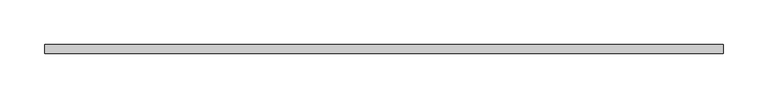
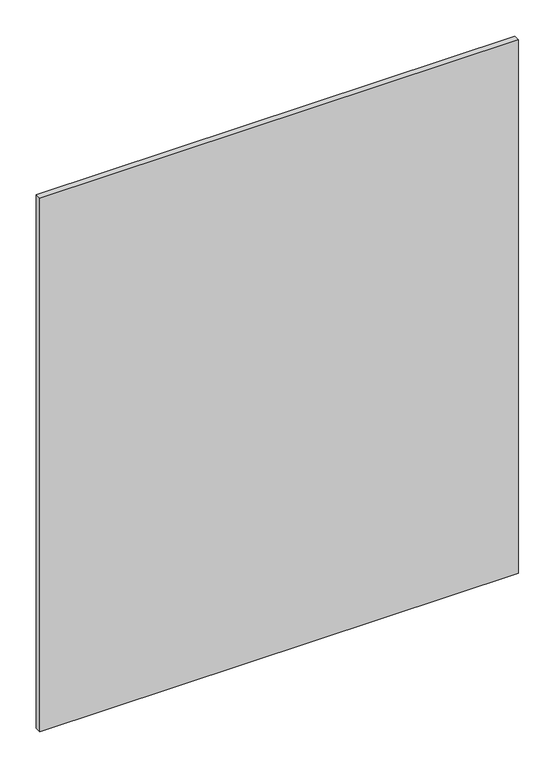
"""IFC4 building model written with IfcOpenShell, lengths in millimetres: plate geometry, システム パネル : 標準."""

import ifcopenshell
import ifcopenshell.guid

model = None  # the IFC model being written
_history = None  # IfcOwnerHistory: only IFC2X3 demands one
_inside = {}  # id of a spatial element -> (the spatial element, [elements in it])
_under = {}  # id of a project, library or spatial element -> (it, [spatial elements below it])
_declared = {}  # id of a project -> (the project, [libraries it declares])
_typed = {}  # id of a type object -> (the type object, [elements of that type])
_made_of = {}  # id of a material, layer set ... -> (it, [elements and type objects made of it])


def new_model(schema):
    """Start an empty IFC model of exactly this schema.

    Asked for "IFC4X3", IfcOpenShell would pick the latest addendum, in which some entities
    have other attributes; the version numbers below select the first issue.
    IFC2X3 requires an IfcOwnerHistory on every rooted entity: one is made here for all.
    """
    global model, _history
    if schema == "IFC4X3":
        model = ifcopenshell.file(schema_version=(4, 3, 0, 0))
    else:
        model = ifcopenshell.file(schema=schema)
    _inside.clear()
    _under.clear()
    _declared.clear()
    _typed.clear()
    _made_of.clear()
    _history = None
    if model.schema == "IFC2X3":
        org = make("IfcOrganization", Name="unknown")
        user = make(
            "IfcPersonAndOrganization",
            ThePerson=make("IfcPerson", FamilyName="unknown"),
            TheOrganization=org,
        )
        app = make(
            "IfcApplication",
            ApplicationDeveloper=org,
            Version="unknown",
            ApplicationFullName="unknown",
            ApplicationIdentifier="unknown",
        )
        _history = make(
            "IfcOwnerHistory",
            OwningUser=user,
            OwningApplication=app,
            ChangeAction="ADDED",
            CreationDate=0,
        )
    return model


def make(cls, **values):
    """One entity of the class cls with the attributes given. An attribute that is None is left unset."""
    return model.create_entity(
        cls, **{name: value for name, value in values.items() if value is not None}
    )


def rooted(cls, **values):
    """An entity with a GlobalId (a new one), such as an element, a storey or a relation."""
    return make(cls, GlobalId=ifcopenshell.guid.new(), OwnerHistory=_history, **values)


def si_unit(unit_type, name, prefix=None):
    """IfcSIUnit, for example si_unit("LENGTHUNIT", "METRE", prefix="MILLI")."""
    return make("IfcSIUnit", UnitType=unit_type, Prefix=prefix, Name=name)


def assignment(units):
    """IfcUnitAssignment: the units of a project."""
    return None if units is None else make("IfcUnitAssignment", Units=units)


def point(xyz):
    """IfcCartesianPoint."""
    return None if xyz is None else make("IfcCartesianPoint", Coordinates=xyz)


def direction(xyz):
    """IfcDirection."""
    return None if xyz is None else make("IfcDirection", DirectionRatios=xyz)


def frame(location, z_axis=None, x_axis=None):
    """IfcAxis2Placement3D, a coordinate frame: its origin and axes. An axis left out is left unset."""
    return make(
        "IfcAxis2Placement3D",
        Location=point(location),
        Axis=direction(z_axis),
        RefDirection=direction(x_axis),
    )


def origin():
    """The frame at (0, 0, 0) with its axes left unset."""
    return frame((0.0, 0.0, 0.0))


def origin_with_axes():
    """The frame at (0, 0, 0) with the z axis (0, 0, 1) and the x axis (1, 0, 0) written out."""
    return frame((0.0, 0.0, 0.0), z_axis=(0.0, 0.0, 1.0), x_axis=(1.0, 0.0, 0.0))


def place(relative_to, where):
    """IfcLocalPlacement: puts the frame where relative to a parent placement (None: the world)."""
    return make(
        "IfcLocalPlacement", PlacementRelTo=relative_to, RelativePlacement=where
    )


def context(
    kind, dimensions, precision=None, world=None, true_north=None, identifier=None
):
    """IfcGeometricRepresentationContext, for example the 3D "Model" context."""
    return make(
        "IfcGeometricRepresentationContext",
        ContextIdentifier=identifier,
        ContextType=kind,
        CoordinateSpaceDimension=dimensions,
        Precision=precision,
        WorldCoordinateSystem=world,
        TrueNorth=true_north,
    )


def project(units=None, contexts=None):
    """IfcProject with its units and contexts."""
    return rooted(
        "IfcProject",
        Name="project",
        RepresentationContexts=contexts,
        UnitsInContext=assignment(units),
    )


def spatial(cls, under=None, at=None, **own):
    """A site, building, storey or space (cls), placed at a placement, below another one or the project."""
    s = rooted(cls, ObjectPlacement=at, **own)
    if under is not None:
        _under.setdefault(under.id(), (under, []))[1].append(s)
    return s


def polyline(points):
    """IfcPolyline through the points."""
    return make("IfcPolyline", Points=[point(p) for p in points])


def outline(outer, holes=None, kind="AREA"):
    """IfcArbitraryClosedProfileDef: a profile drawn as a closed curve; with holes, ...WithVoids."""
    if holes is None:
        return make("IfcArbitraryClosedProfileDef", ProfileType=kind, OuterCurve=outer)
    return make(
        "IfcArbitraryProfileDefWithVoids",
        ProfileType=kind,
        OuterCurve=outer,
        InnerCurves=holes,
    )


def extrude(swept, where, along, depth):
    """IfcExtrudedAreaSolid: the profile swept, set in the frame where, extruded along a direction by depth."""
    return make(
        "IfcExtrudedAreaSolid",
        SweptArea=swept,
        Position=where,
        ExtrudedDirection=direction(along),
        Depth=depth,
    )


def shape(context_of_items, identifier, shape_type, items):
    """IfcShapeRepresentation: the items that make up one representation, for example the "Body"."""
    return make(
        "IfcShapeRepresentation",
        ContextOfItems=context_of_items,
        RepresentationIdentifier=identifier,
        RepresentationType=shape_type,
        Items=items,
    )


def source(mapping_origin, context_of_items, identifier, shape_type, items):
    """IfcRepresentationMap: a shape defined once, which mapped items show again and again."""
    return make(
        "IfcRepresentationMap",
        MappingOrigin=mapping_origin,
        MappedRepresentation=shape(context_of_items, identifier, shape_type, items),
    )


def transform(
    local_origin,
    x_axis=None,
    y_axis=None,
    z_axis=None,
    scale=None,
    scale2=None,
    scale3=None,
    uniform=True,
):
    """IfcCartesianTransformationOperator3D, or its non-uniform kind. x_axis, y_axis, z_axis: its Axis1, 2, 3."""
    if uniform:
        return make(
            "IfcCartesianTransformationOperator3D",
            Axis1=direction(x_axis),
            Axis2=direction(y_axis),
            LocalOrigin=point(local_origin),
            Scale=scale,
            Axis3=direction(z_axis),
        )
    return make(
        "IfcCartesianTransformationOperator3DnonUniform",
        Axis1=direction(x_axis),
        Axis2=direction(y_axis),
        LocalOrigin=point(local_origin),
        Scale=scale,
        Axis3=direction(z_axis),
        Scale2=scale2,
        Scale3=scale3,
    )


def mapped(mapping_source, mapping_target):
    """IfcMappedItem: shows the shape of a source again, moved by a transform."""
    return make(
        "IfcMappedItem", MappingSource=mapping_source, MappingTarget=mapping_target
    )


def made_of(thing, what):
    """Note that an element or type object is made of a material, layer set ...; save() writes the relation."""
    if what is not None:
        _made_of.setdefault(what.id(), (what, []))[1].append(thing)
    return thing


def element(
    cls,
    number,
    at=None,
    inside=None,
    cuts=None,
    type_object=None,
    material=None,
    context=None,
    identifier="Body",
    shape_type=None,
    held_by="IfcProductDefinitionShape",
    body=None,
    shapes=None,
    **own,
):
    """One element of the class cls, such as IfcWall. Its Tag is "e" and its number.

    at: its placement. inside: the storey or other place that contains it. cuts: it is an
    opening in that element (IfcRelVoidsElement). A single representation is given by context,
    identifier, shape_type and body (its items); several are given by shapes. held_by: the class
    of the entity that holds the representations. save() writes the other relations.
    """
    e = rooted(cls, Tag="e%d" % number, ObjectPlacement=at, **own)
    if body is not None:
        shapes = [shape(context, identifier, shape_type, body)]
    if shapes is not None:
        e.Representation = make(held_by, Representations=shapes)
    if inside is not None:
        _inside.setdefault(inside.id(), (inside, []))[1].append(e)
    if cuts is not None:
        rooted(
            "IfcRelVoidsElement", RelatingBuildingElement=cuts, RelatedOpeningElement=e
        )
    if type_object is not None:
        _typed.setdefault(type_object.id(), (type_object, []))[1].append(e)
    return made_of(e, material)


def aggregate(whole, parts):
    """IfcRelAggregates: a whole, such as a stair, and the parts it consists of."""
    return rooted("IfcRelAggregates", RelatingObject=whole, RelatedObjects=parts)


def save(model, path):
    """Write the relations noted so far, then the file.

    IfcRelAggregates (storeys below a building ...), IfcRelContainedInSpatialStructure (elements
    in a storey), IfcRelDefinesByType, IfcRelAssociatesMaterial and IfcRelDeclares: one each for
    every whole, place, type object, material and project.
    """
    for whole, parts in _under.values():
        aggregate(whole, parts)
    for where, things in _inside.values():
        rooted(
            "IfcRelContainedInSpatialStructure",
            RelatedElements=things,
            RelatingStructure=where,
        )
    for kind, things in _typed.values():
        rooted("IfcRelDefinesByType", RelatedObjects=things, RelatingType=kind)
    for what, things in _made_of.values():
        rooted("IfcRelAssociatesMaterial", RelatedObjects=things, RelatingMaterial=what)
    for by, libraries in _declared.values():
        rooted("IfcRelDeclares", RelatingContext=by, RelatedDefinitions=libraries)
    model.write(path)


def plate_83f08a3e(model_context):
    return source(origin(), model_context, "Body", "SweptSolid", [
        extrude(outline(polyline([(380.0, -5.0), (-380.0, -5.0), (-380.0, 5.0), (380.0, 5.0), (380.0, -5.0)])), origin_with_axes(), (0.0, 0.0, 1.0), 895.0),
    ])


if __name__ == "__main__":
    model = new_model("IFC4")
    model_context = context("Model", 3, world=origin())
    ifc_project = project(units=[si_unit("LENGTHUNIT", "METRE", prefix="MILLI")], contexts=[model_context])
    site = spatial("IfcSite", under=ifc_project)
    building = spatial("IfcBuilding", under=site)
    placement = place(None, origin())
    plate_shape = plate_83f08a3e(model_context)
    element("IfcPlate", 1, ObjectType="システム パネル : 標準", at=placement, inside=building, context=model_context, shape_type="MappedRepresentation", body=[
        mapped(plate_shape, transform((0.0, 0.0, 0.0), x_axis=(1.0, 0.0, 0.0), y_axis=(0.0, 1.0, 0.0), z_axis=(0.0, 0.0, 1.0))),
    ])
    save(model, "model.ifc")
